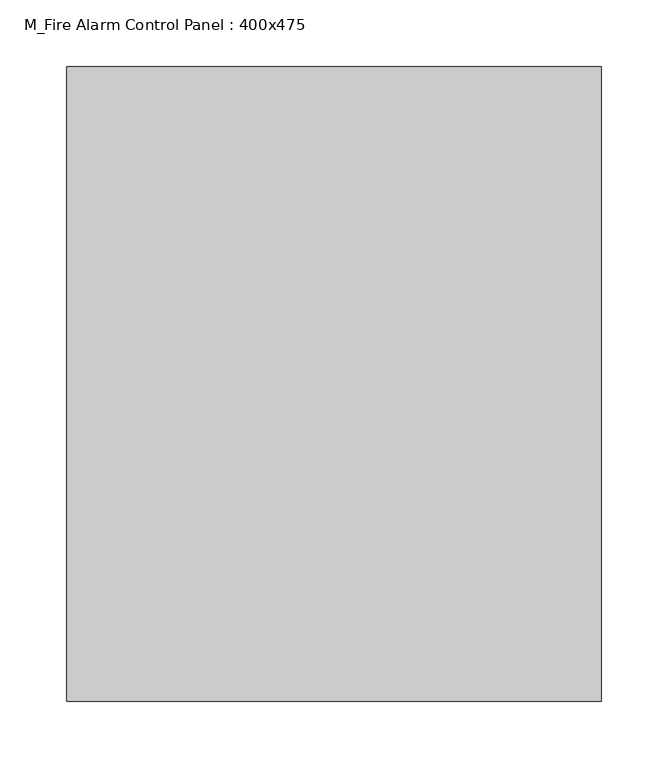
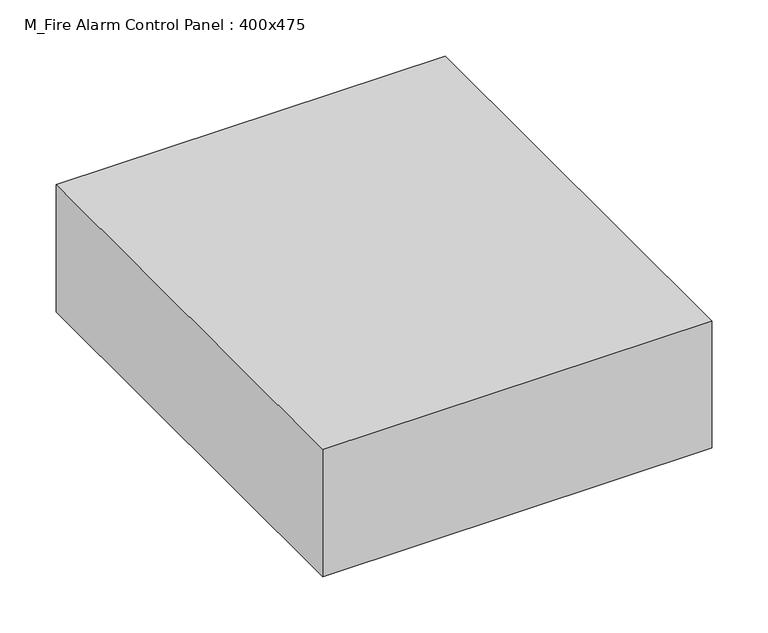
"""IFC4 building model written with IfcOpenShell, lengths in millimetres: electric distribution board geometry, M_Fire Alarm Control Panel : 400x475."""

from ifc_helpers import new_model, si_unit, frame, origin, place, context, project, spatial, polyline, outline, extrude, source, transform, mapped, element, save


def m_fire_alarm_control_panel_400x475_f39818d3(model_context):
    return source(origin(), model_context, "Body", "SweptSolid", [
        extrude(outline(polyline([(200.421875, 0.0), (200.421875, -475.0), (-199.578125, -475.0), (-199.578125, 0.0), (200.421875, 0.0)])), frame((0.0, 0.0, -111.0), z_axis=(0.0, 0.0, 1.0), x_axis=(1.0, 0.0, 0.0)), (0.0, 0.0, 1.0), 138.4),
    ])


if __name__ == "__main__":
    model = new_model("IFC4")
    model_context = context("Model", 3, world=origin())
    ifc_project = project(units=[si_unit("LENGTHUNIT", "METRE", prefix="MILLI")], contexts=[model_context])
    site = spatial("IfcSite", under=ifc_project)
    building = spatial("IfcBuilding", under=site)
    placement = place(None, origin())
    m_fire_alarm_control_panel_400x475_shape = m_fire_alarm_control_panel_400x475_f39818d3(model_context)
    element("IfcElectricDistributionBoard", 1, ObjectType="M_Fire Alarm Control Panel : 400x475", at=placement, inside=building, context=model_context, shape_type="MappedRepresentation", body=[
        mapped(m_fire_alarm_control_panel_400x475_shape, transform((0.0, 0.0, 0.0), x_axis=(1.0, 0.0, 0.0), y_axis=(0.0, 1.0, 0.0), z_axis=(0.0, 0.0, 1.0))),
    ])
    save(model, "model.ifc")
